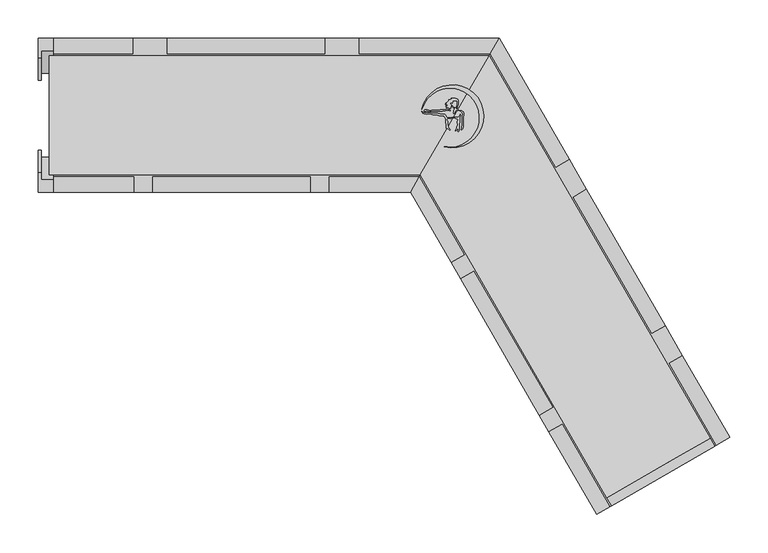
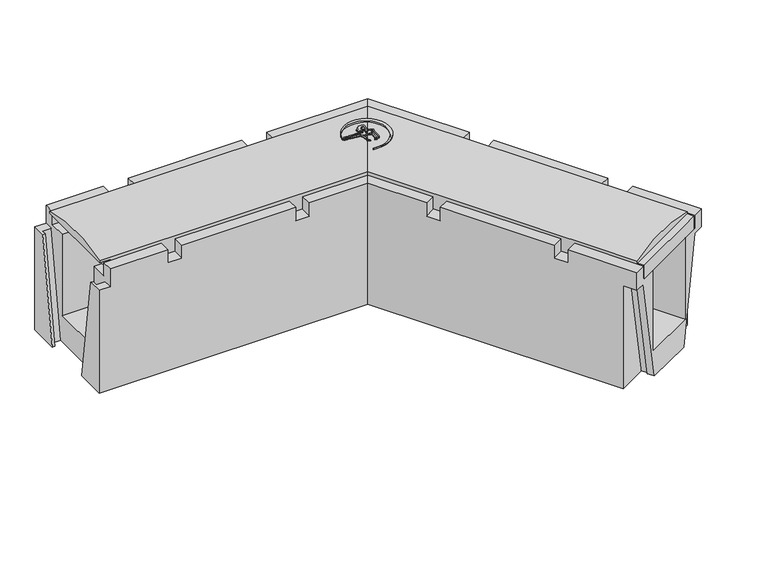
"""IFC4 building model written with IfcOpenShell, lengths in millimetres: cable carrier fitting geometry, Evotray type 1 horizontal bend : Evotray type 1 horizontal bend."""

from ifc_helpers import new_model, si_unit, point, frame, frame_2d, origin, place, context, project, spatial, polyline, circle_curve, ellipse_curve, trimmed, segment, composite_curve, outline, extrude, faceted_brep, source, transform, mapped, element, save
from ifc_brep_helpers import plane_surface, cylinder_surface, advanced_brep


def cable_carrier_fitting_e2ee2367(model_context):
    return source(origin(), model_context, "Body", "SolidModel", [
        extrude(outline(composite_curve([segment(polyline([(46.1321098, 7.5339815), (47.5578008, 6.7108584), (46.8488695, 6.3015567), (44.2839396, 6.3015567), (41.8244463, 3.8420634), (41.8244463, 2.2583954), (40.7669324, 1.9750354), (40.4355653, 3.2117144), (40.7577866, 4.414261), (40.7577866, 6.6410761), (42.2243273, 8.1076167), (41.8244463, 8.8002309), (40.7577866, 9.4160672), (39.8995148, 9.9115907), (38.9063912, 10.9047143), (38.9063912, 12.1547711), (39.6941854, 11.6999379), (40.7577866, 10.6363367), (41.8244463, 10.0205004), (44.137211, 10.0205004), (44.7691097, 10.6523991), (44.7691097, 12.2608037), (45.1749667, 12.9637687), (45.4145367, 13.8578561), (45.4145367, 17.953291), (44.7691097, 18.598718), (40.7577866, 18.9496633), (40.0096225, 18.5177106), (39.577774, 17.769727), (39.3553806, 16.9397435), (39.0826642, 15.393092), (38.5266425, 15.9491137), (37.9609866, 16.5147695), (37.0004517, 16.5147695), (36.5260123, 15.6930164), (36.5260123, 14.868111), (36.9280595, 14.1717449), (37.6557541, 13.4440503), (37.2591148, 11.9637721), (36.9216148, 10.7042051), (37.2244223, 8.9868987), (36.4236292, 8.8456973), (34.6931839, 9.3093687), (33.4464746, 9.8907188), (32.6932174, 10.2419684), (31.0937689, 9.9599424), (31.5613273, 10.7697774), (33.2181483, 11.3728109)]), True, "CONTINUOUS"), segment(trimmed(circle_curve(frame_2d((32.6520207, 11.1008716)), 0.6280537), [point((33.2181483, 11.3728109))], [point((32.4964385, 11.7093497))], True, "CARTESIAN"), True, "CONTINUOUS"), segment(polyline([(32.4964385, 11.7093497), (30.5494235, 11.7093497), (31.1076016, 12.2675278), (31.9583813, 12.5771863), (32.7768208, 12.875074)]), True, "CONTINUOUS"), segment(trimmed(circle_curve(frame_2d((32.0384959, 12.875074)), 0.7383249), [point((32.7768208, 12.875074))], [point((32.0384959, 13.6133989))], True, "CARTESIAN"), True, "CONTINUOUS"), segment(polyline([(32.0384959, 13.6133989), (30.3307483, 13.6133989), (29.9392267, 14.2915342), (31.7578188, 14.612201), (33.0541568, 15.0840295), (32.4334041, 15.7047821), (30.4701846, 15.7047821), (31.0227671, 16.2573646), (32.0525998, 16.8519388), (32.7273241, 17.5266631), (33.4501414, 17.9439819), (34.4251534, 18.5069053)]), True, "CONTINUOUS"), segment(trimmed(circle_curve(frame_2d((34.2141681, 18.8723428)), 0.4219708), [point((34.4251534, 18.5069053))], [point((34.0031827, 19.2377802))], True, "CARTESIAN"), True, "CONTINUOUS"), segment(polyline([(34.0031827, 19.2377802), (34.6205793, 19.8551768), (35.9232493, 20.3293099), (36.9183059, 20.9038061), (38.0498425, 21.1033266), (37.6960167, 22.0754549), (42.6960167, 22.0754549), (43.7101905, 21.6025379), (44.8320455, 21.3019378), (45.8464916, 20.716247), (46.955168, 19.6075706), (46.955168, 17.0415553), (46.4662509, 16.1947259), (46.4662509, 13.46269), (45.9772159, 12.4139512), (45.5704141, 11.7093497), (45.5704141, 9.8605854), (44.7691097, 9.3979521), (43.9358312, 9.2510226)]), True, "CONTINUOUS"), segment(trimmed(circle_curve(frame_2d((44.9887827, 8.9688851)), 1.0900956), [point((43.9358312, 9.2510226))], [point((44.7066452, 7.9159336))], True, "CARTESIAN"), True, "CONTINUOUS"), segment(polyline([(44.7066452, 7.9159336), (46.1321098, 7.5339815)]), True, "CONTINUOUS")], self_intersect=False)), frame((0.0, 0.0, 223.75), z_axis=(0.0, 0.0, 1.0), x_axis=(1.0, 0.0, 0.0)), (0.0, 0.0, 1.0), 22.5),
        extrude(outline(polyline([(50.688819, 4.6789788), (48.766175, 5.7890178), (49.9554151, 6.1076737), (51.3302705, 5.6072673), (53.4564197, 4.3797345), (53.8680691, 2.8434379), (53.8680691, 0.0702487), (53.4496882, -2.3025073), (53.1235511, -11.6418533), (53.1235511, -14.4967502), (52.5639031, -17.6706715), (51.404879, -18.8296956), (50.5073904, -18.8296956), (51.1822646, -16.975494), (51.4912202, -15.2233198), (52.0056775, -12.3056877), (52.0056775, -1.066223), (52.4473121, 1.4384114), (51.9048352, 3.4629626), (50.688819, 4.6789788)])), frame((0.0, 0.0, 223.75), z_axis=(0.0, 0.0, 1.0), x_axis=(1.0, 0.0, 0.0)), (0.0, 0.0, 1.0), 22.5),
        extrude(outline(composite_curve([segment(polyline([(43.2605701, -2.929042), (45.2427715, -2.929042), (46.7110358, -2.6701473), (48.0163179, -1.3648653), (49.1964267, 1.1658863), (49.6773787, -0.1555184), (49.0546709, -1.4909195), (48.3840635, -2.929042), (48.3840635, -8.8872378), (47.9556843, -11.3166965), (47.9556843, -19.7978385), (46.5070257, -21.2464971), (45.9342884, -20.6737599), (46.6130085, -18.9313898), (46.8711538, -17.4673747)]), True, "CONTINUOUS"), segment(trimmed(circle_curve(frame_2d((46.4565058, -17.4673747)), 0.414648), [point((46.8711538, -17.4673747))], [point((46.0418577, -17.4673747))], True, "CARTESIAN"), True, "CONTINUOUS"), segment(polyline([(46.0418577, -17.4673747), (45.276169, -18.2330635), (44.0093225, -19.7428323), (43.3538134, -20.3983414), (42.5614922, -20.0288759), (44.7257121, -16.820288), (45.0316218, -15.0853881), (45.8736797, -13.2795892), (46.1308872, -11.8208929), (45.3423784, -10.4551557), (45.3423784, -7.6886085), (46.6655269, -5.8190518)]), True, "CONTINUOUS"), segment(trimmed(circle_curve(frame_2d((46.3284219, -5.5804712)), 0.4129897), [point((46.6655269, -5.8190518))], [point((46.0898413, -5.2433662))], True, "CARTESIAN"), True, "CONTINUOUS"), segment(polyline([(46.0898413, -5.2433662), (44.0860263, -4.8900395), (42.6421298, -4.2167395), (40.8221291, -3.3680593), (40.8221291, -2.499079), (43.2605701, -2.929042)]), True, "CONTINUOUS")], self_intersect=False)), frame((0.0, 0.0, 223.75), z_axis=(0.0, 0.0, 1.0), x_axis=(1.0, 0.0, 0.0)), (0.0, 0.0, 1.0), 22.5),
        extrude(outline(composite_curve([segment(polyline([(0.8489742, 3.8801527), (2.584648, 3.0707947), (6.7711219, 3.0707947), (7.841843, 3.3576935), (9.1683806, 3.3576935), (10.8894895, 3.0707947), (12.8958115, 2.5332023), (14.0489996, 2.2242065), (19.7409063, 2.2242065), (22.3574022, 1.7880518), (23.6849649, 1.4323324), (29.2992071, 1.4323324)]), True, "CONTINUOUS"), segment(trimmed(circle_curve(frame_2d((38.1527733, 4.337939)), 9.3181642), [point((29.2992071, 1.4323324))], [point((32.6534749, -3.184421))], True, "CARTESIAN"), True, "CONTINUOUS"), segment(polyline([(32.6534749, -3.184421), (35.7052597, -3.184421), (37.7398383, -3.0064185), (38.8788422, -2.4752922), (38.6213223, -3.4363696), (37.677228, -3.9814427), (36.7185411, -4.3303762), (33.4838361, -4.2174178), (32.2951415, -4.6500673), (31.8861471, -5.5271586), (31.9612277, -6.3853337), (32.4401119, -7.2147854), (33.1607174, -7.9353909), (33.1607174, -9.6916034), (32.7954171, -10.6952577), (32.9396837, -12.3442325), (33.444776, -14.2292627), (33.5928952, -15.9222719), (35.9642302, -18.6501808), (35.7555533, -19.8336466), (33.1607174, -17.2388107), (32.1978858, -17.4968007), (30.7947096, -17.2493828), (31.07027, -16.4922869), (31.07027, -14.2182314), (31.2458738, -13.2223327), (31.07027, -11.2151718), (30.6946075, -10.1830477), (30.6946075, -8.3578648), (30.2482718, -7.4006948), (30.2482718, -5.0229453), (29.9998316, -4.0957537), (29.5478612, -3.3129181), (29.0991495, -2.5357266), (28.4847071, -1.9212842), (28.0508558, -0.9908871), (24.4499176, -0.8651396), (22.1057656, -0.4743831), (20.0731723, 0.0702487), (16.7315527, 0.4214671), (14.6519397, 0.4214671), (13.3097051, 0.7811177), (11.7861101, 1.1893638), (10.4428568, 1.8157331), (9.448468, 1.8157331), (6.7970277, 1.8157331), (5.6847835, 1.5177082), (3.8215016, 1.713547), (2.3324267, 1.9617671), (0.6591192, 2.7420433), (-0.3168072, 3.7179696), (-0.9558903, 4.3570527), (-0.9558903, 5.1439324), (0.8489742, 3.8801527)]), True, "CONTINUOUS")], self_intersect=False)), frame((0.0, 0.0, 223.75), z_axis=(0.0, 0.0, 1.0), x_axis=(1.0, 0.0, 0.0)), (0.0, 0.0, 1.0), 22.5),
        extrude(outline(composite_curve([segment(polyline([(3.3512068, 5.4241248), (4.3745211, 4.833314), (2.6468607, 5.3529849), (2.3167141, 6.2705486), (3.1550386, 7.108873), (6.0278571, 7.108873), (7.0122941, 6.7111347), (8.1027829, 6.2705486), (8.9009764, 5.8097113), (10.1612066, 5.8097113), (10.9822316, 6.1051225), (11.8674839, 6.6162232), (18.2811889, 6.6162232), (19.1367634, 6.2705486), (20.2071655, 6.2705486), (21.1678856, 6.6162232), (22.3470423, 6.6162232), (23.0653814, 7.0309564), (28.4780366, 7.0309564), (29.2383173, 7.3045113), (30.4804753, 7.3045113), (31.0562438, 7.8802798), (33.0138073, 7.8802798), (34.3018083, 7.3598936), (35.3137248, 6.7756634), (36.1181658, 6.4506481)]), True, "CONTINUOUS"), segment(trimmed(circle_curve(frame_2d((35.7108335, 6.2860752)), 0.4393221), [point((36.1181658, 6.4506481))], [point((35.5462605, 5.8787428))], False, "CARTESIAN"), True, "CONTINUOUS"), segment(polyline([(35.5462605, 5.8787428), (34.5305318, 6.2891238), (33.2188741, 6.2891238), (31.9484441, 6.5131349), (31.1364197, 6.2209622), (29.9934458, 5.8097113), (26.6492478, 5.8097113), (25.8581745, 5.3529849), (22.2908542, 5.3529849), (21.4079919, 4.8432641), (11.4079919, 4.8432641), (8.7973278, 4.6148606), (5.1088001, 6.1051225), (2.9580326, 6.1051225), (3.3512068, 5.4241248)]), True, "CONTINUOUS")], self_intersect=False)), frame((0.0, 0.0, 223.75), z_axis=(0.0, 0.0, 1.0), x_axis=(1.0, 0.0, 0.0)), (0.0, 0.0, 1.0), 22.5),
        extrude(outline(composite_curve([segment(trimmed(circle_curve(frame_2d((35.9314668, -3.2457098)), 38.3616107), [point((28.52363, -40.8852785))], [point((-0.7800685, 7.8842657))], True, "CARTESIAN"), True, "CONTINUOUS"), segment(trimmed(circle_curve(frame_2d((39.0608676, -1.3653761)), 40.900563), [point((-0.7800685, 7.8842657))], [point((28.52363, -40.8852785))], False, "CARTESIAN"), True, "CONTINUOUS")], self_intersect=False)), frame((0.0, 0.0, 223.75), z_axis=(0.0, 0.0, 1.0), x_axis=(1.0, 0.0, 0.0)), (0.0, 0.0, 1.0), 22.5),
        advanced_brep(
        [(246.2804908, -508.3652423, 205.0), (-2.4796728, -77.5, 205.0), (87.0096189, 77.5, 205.0), (380.5144284, -430.8652423, 205.0), (380.5144284, -430.8652423, 230.0), (246.2804908, -508.3652423, 230.0), (87.0096189, 77.5, 234.0), (374.5144284, -420.4729374, 234.0), (374.5144284, -420.4729374, 230.0), (-2.4796728, -77.5, 234.0), (240.2804908, -497.9729374, 230.0), (240.2804908, -497.9729374, 234.0)],
        [
            (0, 1),
            (1, 2),
            (2, 3),
            (3, 0),
            (3, 4),
            (4, 5),
            (5, 0),
            (2, 6),
            (6, 7),
            (7, 8),
            (8, 4),
            (1, 9),
            (9, 6, ellipse_curve(frame((42.2649731, 0.0, -13.2331502), z_axis=(-0.86602540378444, 0.4999999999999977, 0.0), x_axis=(-0.4999999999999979, -0.8660254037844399, 0.0)), 299.1777187, 259.0955047)),
            (5, 10),
            (10, 11),
            (11, 9),
            (8, 10),
            (7, 11, circle_curve(frame((307.3974596, -459.2229374, -13.2331502), z_axis=(0.49999999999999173, -0.8660254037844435, 0.0), x_axis=(-0.8660254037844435, -0.49999999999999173, 0.0)), 259.0955047)),
        ],
        [
            plane_surface(frame((382.6794919, -429.6152423, 205.0), z_axis=(0.0, 0.0, -1.0), x_axis=(-0.8660254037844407, -0.49999999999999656, 0.0))),
            plane_surface(frame((246.2804908, -508.3652423, 246.0), z_axis=(0.49999999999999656, -0.8660254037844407, 0.0), x_axis=(0.0, 0.0, -1.0))),
            plane_surface(frame((380.5144284, -430.8652423, 246.0), z_axis=(0.8660254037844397, 0.49999999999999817, 0.0), x_axis=(0.0, 0.0, -1.0))),
            plane_surface(frame((87.0096189, 77.5, 246.0), z_axis=(-0.86602540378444, 0.4999999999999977, 0.0), x_axis=(0.0, 0.0, -1.0))),
            plane_surface(frame((-2.4796728, -77.5, 246.0), z_axis=(-0.8660254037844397, -0.4999999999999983, 0.0), x_axis=(0.0, 0.0, -1.0))),
            plane_surface(frame((240.1938883, -498.0229374, 230.0), z_axis=(0.0, 0.0, 1.0), x_axis=(0.8660254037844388, 0.49999999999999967, 0.0))),
            plane_surface(frame((374.5144284, -420.4729374, 246.0), z_axis=(0.49999999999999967, -0.8660254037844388, 0.0), x_axis=(0.0, 0.0, -1.0))),
            cylinder_surface(frame((42.2649731, 0.0, -13.2331502), z_axis=(0.49999999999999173, -0.8660254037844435, 0.0), x_axis=(-0.8660254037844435, -0.49999999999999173, 0.0)), 259.0955047),
        ],
        [
            (0, [[1, 2, 3, 4]]),
            (1, [[-4, 5, 6, 7]]),
            (2, [[-3, 8, 9, 10, 11, -5]]),
            (3, [[-2, 12, 13, -8]]),
            (4, [[-1, -7, 14, 15, 16, -12]]),
            (5, [[17, -14, -6, -11]]),
            (6, [[-17, -10, 18, -15]]),
            (7, [[-9, -13, -16, -18]]),
        ],
    ),
        advanced_brep(
        [(87.0096189, 77.5, 205.0), (-2.4796728, -77.5, 205.0), (-466.0, -77.5, 205.0), (-466.0, 77.5, 205.0), (-2.4796728, -77.5, 230.0), (-2.4796728, -77.5, 234.0), (-486.0, -77.5, 234.0), (-486.0, -77.5, 230.0), (-466.0, -77.5, 230.0), (87.0096189, 77.5, 230.0), (87.0096189, 77.5, 234.0), (-466.0, 77.5, 230.0), (-486.0, 77.5, 230.0), (-486.0, 77.5, 234.0)],
        [
            (0, 1),
            (1, 2),
            (2, 3),
            (3, 0),
            (1, 4),
            (4, 5),
            (5, 6),
            (6, 7),
            (7, 8),
            (8, 2),
            (0, 9),
            (9, 10),
            (10, 5, ellipse_curve(frame((42.2649731, 0.0, -13.2331502), z_axis=(0.86602540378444, -0.4999999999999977, 0.0), x_axis=(0.49999999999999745, 0.8660254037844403, 0.0)), 299.1777187, 259.0955047)),
            (3, 11),
            (11, 12),
            (12, 13),
            (13, 10),
            (12, 7),
            (6, 13, circle_curve(frame((-486.0, 0.0, -13.2331502), z_axis=(-1.0, 0.0, 0.0), x_axis=(0.0, -1.0, 0.0)), 259.0955047)),
            (11, 8),
        ],
        [
            plane_surface(frame((-77.5, -77.5, 205.0), z_axis=(0.0, 0.0, -1.0), x_axis=(-1.0, 0.0, 0.0))),
            plane_surface(frame((-486.0, -77.5, 246.0), z_axis=(0.0, -1.0, 0.0), x_axis=(0.0, 0.0, -1.0))),
            plane_surface(frame((-2.4796728, -77.5, 246.0), z_axis=(0.86602540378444, -0.4999999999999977, 0.0), x_axis=(0.0, 0.0, -1.0))),
            plane_surface(frame((87.0096189, 77.5, 246.0), z_axis=(0.0, 1.0, 0.0), x_axis=(0.0, 0.0, -1.0))),
            plane_surface(frame((-486.0, 77.5, 246.0), z_axis=(-1.0, 0.0, 0.0), x_axis=(0.0, 0.0, -1.0))),
            plane_surface(frame((-486.0, 77.5, 230.0), z_axis=(0.0, 0.0, -1.0), x_axis=(-1.0, 0.0, 0.0))),
            plane_surface(frame((-466.0, -77.5, 230.0), z_axis=(-1.0, 0.0, 0.0), x_axis=(0.0, 0.0, -1.0))),
            cylinder_surface(frame((-486.0, 0.0, -13.2331502), z_axis=(1.0, 0.0, 0.0), x_axis=(0.0, -1.0, 0.0)), 259.0955047),
        ],
        [
            (0, [[1, 2, 3, 4]]),
            (1, [[5, 6, 7, 8, 9, 10, -2]]),
            (2, [[-1, 11, 12, 13, -6, -5]]),
            (3, [[-11, -4, 14, 15, 16, 17, -12]]),
            (4, [[18, -8, 19, -16]]),
            (5, [[20, -9, -18, -15]]),
            (6, [[-20, -14, -3, -10]]),
            (7, [[-7, -13, -17, -19]]),
        ],
    ),
        faceted_brep([(-3.9230485, -80.0, 230.0), (-15.4700538, -100.0, 230.0), (37.2949192, -191.3916142, 230.0), (54.6154273, -181.3916142, 230.0), (100.0, 100.0, 230.0), (88.4529946, 80.0, 230.0), (173.6794919, -67.6166235, 230.0), (191.0, -57.6166235, 230.0), (382.6794919, -429.6152423, 230.0), (400.0, -419.6152423, 230.0), (338.5, -313.0941176, 230.0), (321.1794919, -323.0941176, 230.0), (226.7949192, -519.6152423, 230.0), (244.1154273, -509.6152423, 230.0), (182.1154273, -402.2280922, 230.0), (164.7949192, -412.2280922, 230.0), (316.0, -274.1229744, 230.0), (213.5, -96.5877667, 230.0), (196.1794919, -106.5877667, 230.0), (298.6794919, -284.1229744, 230.0), (49.7949192, -213.0422493, 230.0), (152.2949192, -390.5774571, 230.0), (169.6154273, -380.5774571, 230.0), (67.1154273, -203.0422493, 230.0), (-15.4700538, -100.0, 0.0), (100.0, 100.0, 0.0), (387.5, -397.9646072, 0.0), (338.136552, -426.4646072, 0.0), (344.136552, -436.856912, 0.0), (346.215013, -435.656912, 0.0), (352.715013, -446.9152423, 0.0), (274.0799063, -492.3152423, 0.0), (267.5799063, -481.056912, 0.0), (269.6583673, -479.856912, 0.0), (263.6583673, -469.4646072, 0.0), (214.2949192, -497.9646072, 0.0), (191.0, -57.6166235, 205.0), (213.5, -96.5877667, 205.0), (316.0, -274.1229744, 205.0), (338.5, -313.0941176, 205.0), (400.0, -419.6152423, 196.0), (387.5, -397.9646072, 196.0), (-3.9230485, -80.0, 205.0), (13.3974596, -50.0, 205.0), (13.3974596, -50.0, 50.0), (71.1324865, 50.0, 50.0), (71.1324865, 50.0, 205.0), (88.4529946, 80.0, 205.0), (214.2949192, -497.9646072, 196.0), (226.7949192, -519.6152423, 196.0), (164.7949192, -412.2280922, 205.0), (152.2949192, -390.5774571, 205.0), (49.7949192, -213.0422493, 205.0), (37.2949192, -191.3916142, 205.0), (244.1154273, -509.6152423, 196.0), (382.6794919, -429.6152423, 196.0), (382.6794919, -429.6152423, 205.0), (356.6987298, -444.6152423, 205.0), (356.6987298, -444.6152423, 50.0), (270.0961894, -494.6152423, 50.0), (270.0961894, -494.6152423, 205.0), (244.1154273, -509.6152423, 205.0), (237.6154273, -498.356912, 196.0), (233.6938883, -486.7646072, 196.0), (239.6938883, -497.156912, 196.0), (376.1794919, -418.356912, 196.0), (374.101031, -419.556912, 196.0), (368.101031, -409.1646072, 196.0), (54.6154273, -181.3916142, 205.0), (67.1154273, -203.0422493, 205.0), (169.6154273, -380.5774571, 205.0), (182.1154273, -402.2280922, 205.0), (321.1794919, -323.0941176, 205.0), (298.6794919, -284.1229744, 205.0), (196.1794919, -106.5877667, 205.0), (173.6794919, -67.6166235, 205.0)], [[[0, 1, 2, 3]], [[4, 5, 6, 7]], [[8, 9, 10, 11]], [[12, 13, 14, 15]], [[16, 17, 18, 19]], [[20, 21, 22, 23]], [[24, 25, 26, 27, 28, 29, 30, 31, 32, 33, 34, 35]], [[25, 4, 7, 36, 37, 17, 16, 38, 39, 10, 9, 40, 41, 26]], [[25, 24, 1, 0, 42, 43, 44, 45, 46, 47, 5, 4]], [[1, 24, 35, 48, 49, 12, 15, 50, 51, 21, 20, 52, 53, 2]], [[12, 49, 54, 31, 30, 55, 40, 9, 8, 56, 57, 58, 59, 60, 61, 13]], [[62, 54, 49, 48, 63, 64]], [[54, 62, 32, 31]], [[55, 65, 66, 67, 41, 40]], [[65, 55, 30, 29]], [[64, 33, 32, 62]], [[64, 63, 34, 33]], [[63, 48, 35, 34]], [[28, 66, 65, 29]], [[67, 66, 28, 27]], [[41, 67, 27, 26]], [[43, 42, 68, 53, 52, 69, 70, 51, 50, 71, 61, 60]], [[47, 46, 57, 56, 72, 39, 38, 73, 74, 37, 36, 75]], [[19, 18, 74, 73]], [[5, 47, 75, 6]], [[56, 8, 11, 72]], [[23, 22, 70, 69]], [[42, 0, 3, 68]], [[13, 61, 71, 14]], [[58, 45, 44, 59]], [[45, 58, 57, 46]], [[59, 44, 43, 60]], [[51, 70, 22, 21]], [[71, 50, 15, 14]], [[75, 36, 7, 6]], [[37, 74, 18, 17]], [[73, 38, 16, 19]], [[39, 72, 11, 10]], [[53, 68, 3, 2]], [[69, 52, 20, 23]]]),
        faceted_brep([(-15.4700538, -100.0, 230.0), (-3.9230485, -80.0, 230.0), (-121.0, -80.0, 230.0), (-121.0, -100.0, 230.0), (88.4529946, 80.0, 230.0), (100.0, 100.0, 230.0), (-82.0, 100.0, 230.0), (-82.0, 80.0, 230.0), (-127.0, 100.0, 230.0), (-332.0, 100.0, 230.0), (-332.0, 80.0, 230.0), (-127.0, 80.0, 230.0), (-376.0, -100.0, 230.0), (-376.0, -80.0, 230.0), (-480.0, -80.0, 230.0), (-480.0, -100.0, 230.0), (-377.0, 80.0, 230.0), (-377.0, 100.0, 230.0), (-480.0, 100.0, 230.0), (-480.0, 80.0, 230.0), (-351.0, -100.0, 230.0), (-146.0, -100.0, 230.0), (-146.0, -80.0, 230.0), (-351.0, -80.0, 230.0), (-500.0, 100.0, 0.0), (100.0, 100.0, 0.0), (-15.4700538, -100.0, 0.0), (-500.0, -100.0, 0.0), (-500.0, -45.5, 0.0), (-496.0, -45.5, 0.0), (-496.0, -54.6, 0.0), (-480.0, -54.6, 0.0), (-480.0, 54.6, 0.0), (-496.0, 54.6, 0.0), (-496.0, 45.4, 0.0), (-500.0, 45.4, 0.0), (-500.0, 100.0, 196.0), (-500.0, 74.8852174, 196.0), (-500.0, -100.0, 196.0), (-500.0, -74.9, 196.0), (-121.0, -100.0, 205.0), (-146.0, -100.0, 205.0), (-351.0, -100.0, 205.0), (-376.0, -100.0, 205.0), (-480.0, -100.0, 196.0), (88.4529946, 80.0, 205.0), (71.1324865, 50.0, 205.0), (71.1324865, 50.0, 50.0), (13.3974596, -50.0, 50.0), (13.3974596, -50.0, 205.0), (-3.9230485, -80.0, 205.0), (-480.0, 100.0, 196.0), (-377.0, 100.0, 205.0), (-332.0, 100.0, 205.0), (-127.0, 100.0, 205.0), (-82.0, 100.0, 205.0), (-82.0, 80.0, 205.0), (-127.0, 80.0, 205.0), (-332.0, 80.0, 205.0), (-377.0, 80.0, 205.0), (-480.0, 80.0, 205.0), (-480.0, 77.5, 205.0), (-480.0, 50.0, 205.0), (-466.0, 50.0, 205.0), (-466.0, -50.0, 205.0), (-480.0, -50.0, 205.0), (-480.0, -77.5, 205.0), (-480.0, -80.0, 205.0), (-376.0, -80.0, 205.0), (-351.0, -80.0, 205.0), (-146.0, -80.0, 205.0), (-121.0, -80.0, 205.0), (-480.0, 50.0, 50.0), (-480.0, -50.0, 50.0), (-480.0, -84.0852174, 196.0), (-496.0, -84.0852174, 196.0), (-496.0, -74.9, 196.0), (-496.0, 74.8852174, 196.0), (-496.0, 84.0, 196.0), (-480.0, 84.0, 196.0)], [[[0, 1, 2, 3]], [[4, 5, 6, 7]], [[8, 9, 10, 11]], [[12, 13, 14, 15]], [[16, 17, 18, 19]], [[20, 21, 22, 23]], [[24, 25, 26, 27, 28, 29, 30, 31, 32, 33, 34, 35]], [[36, 24, 35, 37]], [[27, 38, 39, 28]], [[27, 26, 0, 3, 40, 41, 21, 20, 42, 43, 12, 15, 44, 38]], [[26, 25, 5, 4, 45, 46, 47, 48, 49, 50, 1, 0]], [[25, 24, 36, 51, 18, 17, 52, 53, 9, 8, 54, 55, 6, 5]], [[46, 45, 56, 55, 54, 57, 58, 53, 52, 59, 60, 61, 62, 63]], [[50, 49, 64, 65, 66, 67, 68, 43, 42, 69, 70, 41, 40, 71]], [[23, 22, 70, 69]], [[1, 50, 71, 2]], [[13, 68, 67, 14]], [[11, 10, 58, 57]], [[45, 4, 7, 56]], [[59, 16, 19, 60]], [[48, 47, 72, 73]], [[47, 46, 63, 62, 72]], [[49, 48, 73, 65, 64]], [[43, 68, 13, 12]], [[69, 42, 20, 23]], [[59, 52, 17, 16]], [[53, 58, 10, 9]], [[57, 54, 8, 11]], [[55, 56, 7, 6]], [[38, 44, 74, 75, 76, 39]], [[51, 36, 37, 77, 78, 79]], [[44, 15, 14, 67, 66, 65, 73, 72, 62, 61, 60, 19, 18, 51, 79, 32, 31, 74]], [[35, 34, 77, 37]], [[29, 28, 39, 76]], [[32, 79, 78, 33]], [[33, 78, 77, 34]], [[75, 30, 29, 76]], [[74, 31, 30, 75]], [[41, 70, 22, 21]], [[71, 40, 3, 2]]]),
    ])


if __name__ == "__main__":
    model = new_model("IFC4")
    model_context = context("Model", 3, world=origin())
    ifc_project = project(units=[si_unit("LENGTHUNIT", "METRE", prefix="MILLI")], contexts=[model_context])
    site = spatial("IfcSite", under=ifc_project)
    building = spatial("IfcBuilding", under=site)
    placement = place(None, origin())
    cable_carrier_fitting_shape = cable_carrier_fitting_e2ee2367(model_context)
    element("IfcCableCarrierFitting", 1, ObjectType="Evotray type 1 horizontal bend : Evotray type 1 horizontal bend", at=placement, inside=building, context=model_context, shape_type="MappedRepresentation", body=[
        mapped(cable_carrier_fitting_shape, transform((0.0, 0.0, 0.0), x_axis=(1.0, 0.0, 0.0), y_axis=(0.0, 1.0, 0.0), z_axis=(0.0, 0.0, 1.0))),
    ])
    save(model, "model.ifc")
